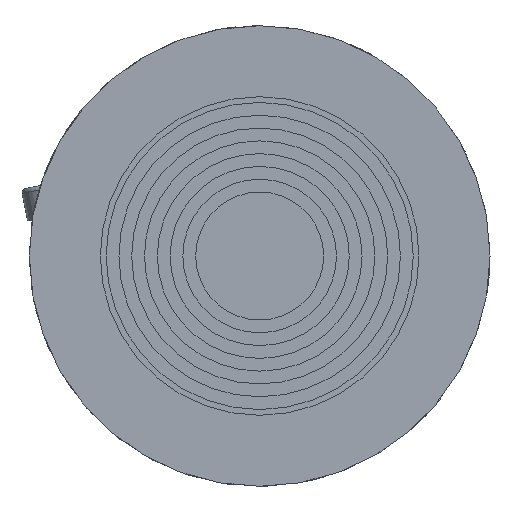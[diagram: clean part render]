
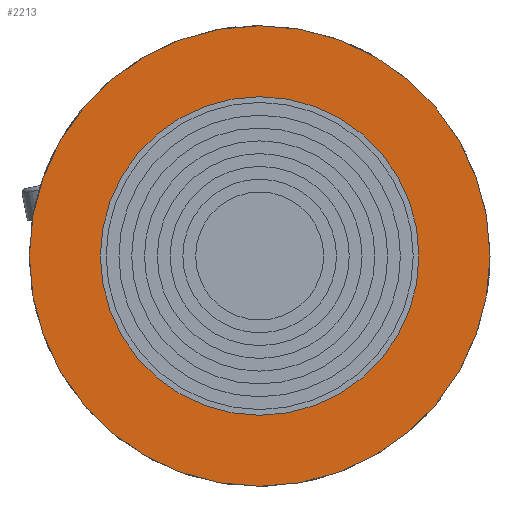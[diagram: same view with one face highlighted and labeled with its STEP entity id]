
A CAD part, left-side view. The second image highlights one B-rep face of the part: STEP entity #2213.
In plain terms, the highlighted planar face has unit normal (-1, 0, 0).
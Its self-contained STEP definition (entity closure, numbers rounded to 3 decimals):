
#315 = DIRECTION ( 'NONE',  ( 0., 0., 1. ) ) ;
#316 = EDGE_CURVE ( 'NONE', #2791, #4290, #3039, .T. ) ;
#424 = VERTEX_POINT ( 'NONE', #3567 ) ;
#572 = VERTEX_POINT ( 'NONE', #2973 ) ;
#691 = ORIENTED_EDGE ( 'NONE', *, *, #316, .T. ) ;
#767 = AXIS2_PLACEMENT_3D ( 'NONE', #3865, #1743, #4227 ) ;
#859 = DIRECTION ( 'NONE',  ( -1., 0., 0. ) ) ;
#923 = ORIENTED_EDGE ( 'NONE', *, *, #1658, .F. ) ;
#1414 = PLANE ( 'NONE',  #4214 ) ;
#1474 = FACE_BOUND ( 'NONE', #3357, .T. ) ;
#1476 = CIRCLE ( 'NONE', #1524, 12.45 ) ;
#1524 = AXIS2_PLACEMENT_3D ( 'NONE', #3002, #859, #3358 ) ;
#1658 = EDGE_CURVE ( 'NONE', #424, #572, #1476, .T. ) ;
#1743 = DIRECTION ( 'NONE',  ( -1., 0., 0. ) ) ;
#1804 = CARTESIAN_POINT ( 'NONE',  ( 0., 0., 0. ) ) ;
#1871 = EDGE_LOOP ( 'NONE', ( #691, #4078 ) ) ;
#2128 = AXIS2_PLACEMENT_3D ( 'NONE', #1804, #4291, #2171 ) ;
#2154 = DIRECTION ( 'NONE',  ( 1., 0., 0. ) ) ;
#2171 = DIRECTION ( 'NONE',  ( 0., 0., 1. ) ) ;
#2209 = FACE_OUTER_BOUND ( 'NONE', #1871, .T. ) ;
#2213 = ADVANCED_FACE ( 'NONE', ( #1474, #2209 ), #1414, .F. ) ;
#2485 = CARTESIAN_POINT ( 'NONE',  ( 0., 18., 0. ) ) ;
#2498 = DIRECTION ( 'NONE',  ( -1., 0., 0. ) ) ;
#2571 = AXIS2_PLACEMENT_3D ( 'NONE', #4647, #2498, #315 ) ;
#2762 = CARTESIAN_POINT ( 'NONE',  ( 0., 0., -18. ) ) ;
#2791 = VERTEX_POINT ( 'NONE', #2890 ) ;
#2890 = CARTESIAN_POINT ( 'NONE',  ( 0., 0., 18. ) ) ;
#2973 = CARTESIAN_POINT ( 'NONE',  ( 0., 0., 12.45 ) ) ;
#3002 = CARTESIAN_POINT ( 'NONE',  ( 0., 0., 0. ) ) ;
#3016 = ORIENTED_EDGE ( 'NONE', *, *, #3375, .F. ) ;
#3039 = CIRCLE ( 'NONE', #767, 18. ) ;
#3312 = EDGE_CURVE ( 'NONE', #4290, #2791, #4172, .T. ) ;
#3357 = EDGE_LOOP ( 'NONE', ( #3016, #923 ) ) ;
#3358 = DIRECTION ( 'NONE',  ( 0., 0., 1. ) ) ;
#3375 = EDGE_CURVE ( 'NONE', #572, #424, #3952, .T. ) ;
#3567 = CARTESIAN_POINT ( 'NONE',  ( 0., 0., -12.45 ) ) ;
#3865 = CARTESIAN_POINT ( 'NONE',  ( 0., 0., 0. ) ) ;
#3952 = CIRCLE ( 'NONE', #2571, 12.45 ) ;
#4078 = ORIENTED_EDGE ( 'NONE', *, *, #3312, .T. ) ;
#4172 = CIRCLE ( 'NONE', #2128, 18. ) ;
#4214 = AXIS2_PLACEMENT_3D ( 'NONE', #2485, #2154, #4645 ) ;
#4227 = DIRECTION ( 'NONE',  ( 0., 0., 1. ) ) ;
#4290 = VERTEX_POINT ( 'NONE', #2762 ) ;
#4291 = DIRECTION ( 'NONE',  ( -1., 0., 0. ) ) ;
#4645 = DIRECTION ( 'NONE',  ( 0., 0., -1. ) ) ;
#4647 = CARTESIAN_POINT ( 'NONE',  ( 0., 0., 0. ) ) ;
